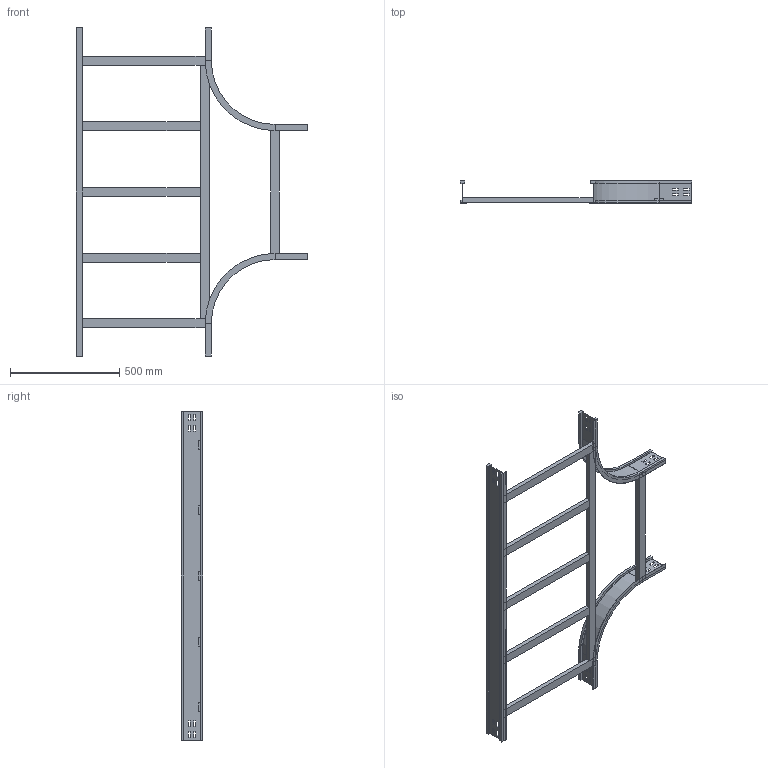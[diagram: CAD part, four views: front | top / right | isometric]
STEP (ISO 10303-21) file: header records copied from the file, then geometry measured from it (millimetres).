
FILE_DESCRIPTION (( 'STEP AP214' ), '1' );
FILE_NAME ('15S3D600.step', '2025-02-21T16:12:34', ( '' ), ( '' ), 'SwSTEP 2.0', 'SolidWorks 2023', '' );
FILE_SCHEMA (( 'AUTOMOTIVE_DESIGN' ));
Length unit declared in the file: millimetre
Products named in the file (6): LONGH.RETT_H100_R300+600; LONGH.INTERNO 90°_H100_R300; TRAVERSINO_LONG._R300+600; 15S3D600; TRAVERSINO_INTERMEDIO_R300+600; TRAVERSINO_600
Assembly tree (10 placements, depth 2):
  15S3D600
    LONGH.INTERNO 90°_H100_R300  x2
    LONGH.RETT_H100_R300+600
    TRAVERSINO_600  x3
    TRAVERSINO_LONG._R300+600
    TRAVERSINO_INTERMEDIO_R300+600  x3
Bounding box: 1059 x 100 x 1500 mm (x, y, z)
Volume: 5348662.1 mm3; surface area: 1470263.1 mm2
Topology: 10 solids, 10 shells, 228 faces, 576 edges, 368 vertices
Faces by surface type: plane 216, cylinder 12
Entity records: 4283 total; most frequent: CARTESIAN_POINT 719, ORIENTED_EDGE 696, DIRECTION 654, EDGE_CURVE 348, LINE 336, VECTOR 336, VERTEX_POINT 224, EDGE_LOOP 166
